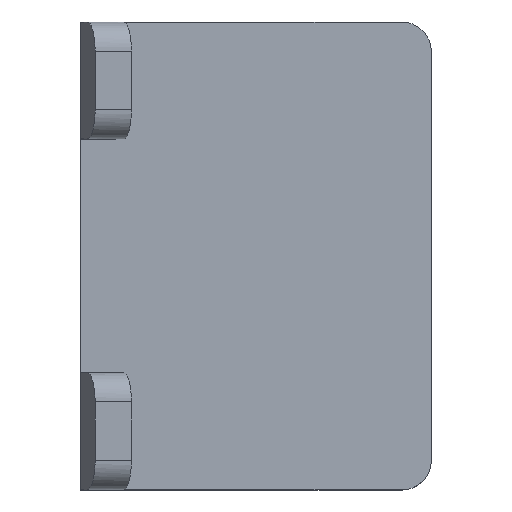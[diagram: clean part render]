
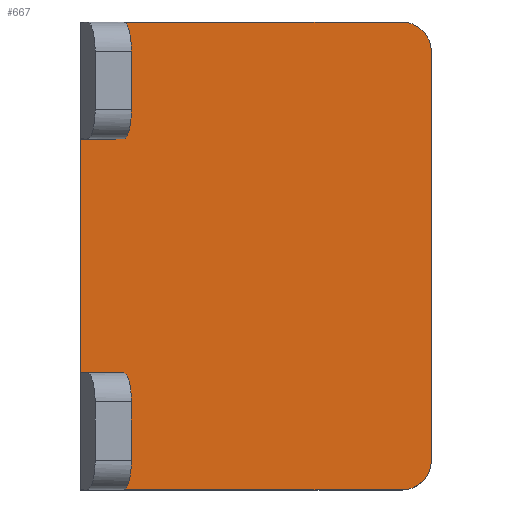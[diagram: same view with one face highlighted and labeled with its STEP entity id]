
A CAD part, top view. The second image highlights one B-rep face of the part: STEP entity #667.
In plain terms, the highlighted planar face has unit normal (0, 0, 1).
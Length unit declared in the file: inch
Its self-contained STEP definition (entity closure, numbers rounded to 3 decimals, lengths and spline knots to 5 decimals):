
#58 = VERTEX_POINT ( 'NONE', #113 ) ;
#81 = CARTESIAN_POINT ( 'NONE',  ( 0., 0., 0.5 ) ) ;
#88 = CARTESIAN_POINT ( 'NONE',  ( 0., 0., 0.5 ) ) ;
#106 = ORIENTED_EDGE ( 'NONE', *, *, #1294, .T. ) ;
#112 = ORIENTED_EDGE ( 'NONE', *, *, #368, .T. ) ;
#113 = CARTESIAN_POINT ( 'NONE',  ( 0.5, 1.5, 0.5 ) ) ;
#143 = DIRECTION ( 'NONE',  ( 0., -1., 0. ) ) ;
#155 = EDGE_LOOP ( 'NONE', ( #471, #845, #783, #922, #637, #562, #106, #112, #831, #1579 ) ) ;
#171 = CARTESIAN_POINT ( 'NONE',  ( 0.5, 1.35, 0.5 ) ) ;
#179 = VERTEX_POINT ( 'NONE', #1230 ) ;
#214 = CIRCLE ( 'NONE', #567, 0.125 ) ;
#239 = VERTEX_POINT ( 'NONE', #1336 ) ;
#240 = CARTESIAN_POINT ( 'NONE',  ( 2., 0., 0.5 ) ) ;
#245 = DIRECTION ( 'NONE',  ( -1., 0., 0. ) ) ;
#265 = EDGE_CURVE ( 'NONE', #239, #1475, #997, .T. ) ;
#325 = DIRECTION ( 'NONE',  ( 0., 0., -1. ) ) ;
#366 = CARTESIAN_POINT ( 'NONE',  ( 1.875, 0.125, 0.5 ) ) ;
#368 = EDGE_CURVE ( 'NONE', #1217, #239, #1223, .T. ) ;
#391 = AXIS2_PLACEMENT_3D ( 'NONE', #366, #1250, #488 ) ;
#401 = CARTESIAN_POINT ( 'NONE',  ( 0.125, 0., 0.5 ) ) ;
#402 = VECTOR ( 'NONE', #620, 39.37008 ) ;
#403 = VERTEX_POINT ( 'NONE', #1287 ) ;
#408 = CARTESIAN_POINT ( 'NONE',  ( 0.125, 0.125, 0.5 ) ) ;
#430 = DIRECTION ( 'NONE',  ( -1., 0., 0. ) ) ;
#432 = VERTEX_POINT ( 'NONE', #401 ) ;
#436 = LINE ( 'NONE', #893, #402 ) ;
#451 = LINE ( 'NONE', #240, #1421 ) ;
#467 = VERTEX_POINT ( 'NONE', #544 ) ;
#471 = ORIENTED_EDGE ( 'NONE', *, *, #1185, .T. ) ;
#488 = DIRECTION ( 'NONE',  ( -1., 0., 0. ) ) ;
#516 = DIRECTION ( 'NONE',  ( 0., -1., 0. ) ) ;
#544 = CARTESIAN_POINT ( 'NONE',  ( 2., 1.35, 0.5 ) ) ;
#562 = ORIENTED_EDGE ( 'NONE', *, *, #1127, .T. ) ;
#567 = AXIS2_PLACEMENT_3D ( 'NONE', #408, #1292, #664 ) ;
#585 = EDGE_CURVE ( 'NONE', #1475, #432, #214, .T. ) ;
#620 = DIRECTION ( 'NONE',  ( 1., 0., 0. ) ) ;
#637 = ORIENTED_EDGE ( 'NONE', *, *, #1181, .F. ) ;
#641 = LINE ( 'NONE', #1492, #1142 ) ;
#664 = DIRECTION ( 'NONE',  ( -1., 0., 0. ) ) ;
#667 = ADVANCED_FACE ( 'NONE', ( #1017 ), #1531, .F. ) ;
#688 = DIRECTION ( 'NONE',  ( 0., -1., 0. ) ) ;
#765 = DIRECTION ( 'NONE',  ( -1., 0., 0. ) ) ;
#783 = ORIENTED_EDGE ( 'NONE', *, *, #1553, .T. ) ;
#788 = VECTOR ( 'NONE', #688, 39.37008 ) ;
#831 = ORIENTED_EDGE ( 'NONE', *, *, #265, .T. ) ;
#845 = ORIENTED_EDGE ( 'NONE', *, *, #1602, .T. ) ;
#893 = CARTESIAN_POINT ( 'NONE',  ( 0., 0., 0.5 ) ) ;
#922 = ORIENTED_EDGE ( 'NONE', *, *, #947, .T. ) ;
#947 = EDGE_CURVE ( 'NONE', #467, #1532, #641, .T. ) ;
#955 = CARTESIAN_POINT ( 'NONE',  ( 1.5, 1.5, 0.5 ) ) ;
#964 = CIRCLE ( 'NONE', #391, 0.125 ) ;
#975 = CARTESIAN_POINT ( 'NONE',  ( 1.875, 0., 0.5 ) ) ;
#991 = CARTESIAN_POINT ( 'NONE',  ( 0., 1.5, 0.5 ) ) ;
#996 = DIRECTION ( 'NONE',  ( 0., 1., 0. ) ) ;
#997 = LINE ( 'NONE', #88, #1261 ) ;
#1009 = AXIS2_PLACEMENT_3D ( 'NONE', #81, #325, #1204 ) ;
#1017 = FACE_OUTER_BOUND ( 'NONE', #155, .T. ) ;
#1110 = CARTESIAN_POINT ( 'NONE',  ( 1.5, 1.35, 0.5 ) ) ;
#1127 = EDGE_CURVE ( 'NONE', #403, #58, #1184, .T. ) ;
#1142 = VECTOR ( 'NONE', #765, 39.37008 ) ;
#1154 = VECTOR ( 'NONE', #245, 39.37008 ) ;
#1181 = EDGE_CURVE ( 'NONE', #403, #1532, #1439, .T. ) ;
#1184 = LINE ( 'NONE', #991, #1154 ) ;
#1185 = EDGE_CURVE ( 'NONE', #432, #1474, #436, .T. ) ;
#1204 = DIRECTION ( 'NONE',  ( -1., 0., 0. ) ) ;
#1217 = VERTEX_POINT ( 'NONE', #171 ) ;
#1223 = LINE ( 'NONE', #1556, #1225 ) ;
#1225 = VECTOR ( 'NONE', #430, 39.37008 ) ;
#1230 = CARTESIAN_POINT ( 'NONE',  ( 2., 0.125, 0.5 ) ) ;
#1250 = DIRECTION ( 'NONE',  ( 0., 0., 1. ) ) ;
#1261 = VECTOR ( 'NONE', #143, 39.37008 ) ;
#1287 = CARTESIAN_POINT ( 'NONE',  ( 1.5, 1.5, 0.5 ) ) ;
#1289 = LINE ( 'NONE', #1608, #1570 ) ;
#1292 = DIRECTION ( 'NONE',  ( 0., 0., 1. ) ) ;
#1294 = EDGE_CURVE ( 'NONE', #58, #1217, #1289, .T. ) ;
#1336 = CARTESIAN_POINT ( 'NONE',  ( 0., 1.35, 0.5 ) ) ;
#1421 = VECTOR ( 'NONE', #996, 39.37008 ) ;
#1439 = LINE ( 'NONE', #955, #788 ) ;
#1474 = VERTEX_POINT ( 'NONE', #975 ) ;
#1475 = VERTEX_POINT ( 'NONE', #1589 ) ;
#1492 = CARTESIAN_POINT ( 'NONE',  ( 2., 1.35, 0.5 ) ) ;
#1531 = PLANE ( 'NONE',  #1009 ) ;
#1532 = VERTEX_POINT ( 'NONE', #1110 ) ;
#1553 = EDGE_CURVE ( 'NONE', #179, #467, #451, .T. ) ;
#1556 = CARTESIAN_POINT ( 'NONE',  ( 0.5, 1.35, 0.5 ) ) ;
#1570 = VECTOR ( 'NONE', #516, 39.37008 ) ;
#1579 = ORIENTED_EDGE ( 'NONE', *, *, #585, .T. ) ;
#1589 = CARTESIAN_POINT ( 'NONE',  ( 0., 0.125, 0.5 ) ) ;
#1602 = EDGE_CURVE ( 'NONE', #1474, #179, #964, .T. ) ;
#1608 = CARTESIAN_POINT ( 'NONE',  ( 0.5, 1.5, 0.5 ) ) ;
